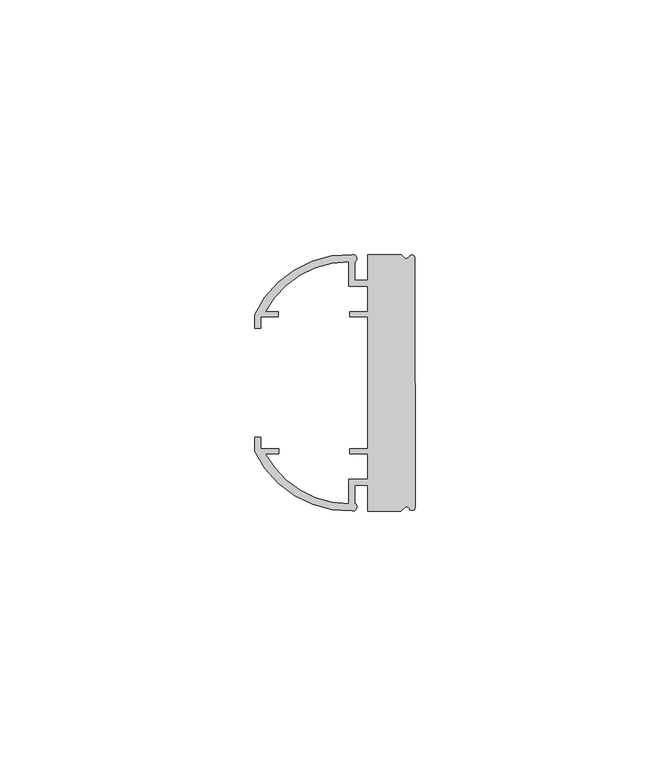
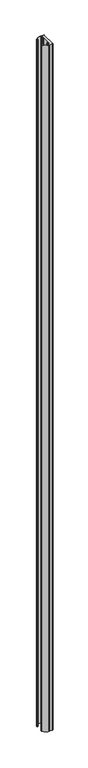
"""IFC4 building model written with IfcOpenShell, lengths in millimetres: member geometry, Прямоугольный импост : 12-AMG-2-Профиль жалюзи горизонтальный."""

import ifcopenshell
import ifcopenshell.guid

model = None  # the IFC model being written
_history = None  # IfcOwnerHistory: only IFC2X3 demands one
_inside = {}  # id of a spatial element -> (the spatial element, [elements in it])
_under = {}  # id of a project, library or spatial element -> (it, [spatial elements below it])
_declared = {}  # id of a project -> (the project, [libraries it declares])
_typed = {}  # id of a type object -> (the type object, [elements of that type])
_made_of = {}  # id of a material, layer set ... -> (it, [elements and type objects made of it])


def new_model(schema):
    """Start an empty IFC model of exactly this schema.

    Asked for "IFC4X3", IfcOpenShell would pick the latest addendum, in which some entities
    have other attributes; the version numbers below select the first issue.
    IFC2X3 requires an IfcOwnerHistory on every rooted entity: one is made here for all.
    """
    global model, _history
    if schema == "IFC4X3":
        model = ifcopenshell.file(schema_version=(4, 3, 0, 0))
    else:
        model = ifcopenshell.file(schema=schema)
    _inside.clear()
    _under.clear()
    _declared.clear()
    _typed.clear()
    _made_of.clear()
    _history = None
    if model.schema == "IFC2X3":
        org = make("IfcOrganization", Name="unknown")
        user = make(
            "IfcPersonAndOrganization",
            ThePerson=make("IfcPerson", FamilyName="unknown"),
            TheOrganization=org,
        )
        app = make(
            "IfcApplication",
            ApplicationDeveloper=org,
            Version="unknown",
            ApplicationFullName="unknown",
            ApplicationIdentifier="unknown",
        )
        _history = make(
            "IfcOwnerHistory",
            OwningUser=user,
            OwningApplication=app,
            ChangeAction="ADDED",
            CreationDate=0,
        )
    return model


def make(cls, **values):
    """One entity of the class cls with the attributes given. An attribute that is None is left unset."""
    return model.create_entity(
        cls, **{name: value for name, value in values.items() if value is not None}
    )


def rooted(cls, **values):
    """An entity with a GlobalId (a new one), such as an element, a storey or a relation."""
    return make(cls, GlobalId=ifcopenshell.guid.new(), OwnerHistory=_history, **values)


def si_unit(unit_type, name, prefix=None):
    """IfcSIUnit, for example si_unit("LENGTHUNIT", "METRE", prefix="MILLI")."""
    return make("IfcSIUnit", UnitType=unit_type, Prefix=prefix, Name=name)


def assignment(units):
    """IfcUnitAssignment: the units of a project."""
    return None if units is None else make("IfcUnitAssignment", Units=units)


def point(xyz):
    """IfcCartesianPoint."""
    return None if xyz is None else make("IfcCartesianPoint", Coordinates=xyz)


def direction(xyz):
    """IfcDirection."""
    return None if xyz is None else make("IfcDirection", DirectionRatios=xyz)


def frame(location, z_axis=None, x_axis=None):
    """IfcAxis2Placement3D, a coordinate frame: its origin and axes. An axis left out is left unset."""
    return make(
        "IfcAxis2Placement3D",
        Location=point(location),
        Axis=direction(z_axis),
        RefDirection=direction(x_axis),
    )


def frame_2d(location, x_axis=None):
    """IfcAxis2Placement2D, a coordinate frame in the plane: its origin and x axis."""
    return make(
        "IfcAxis2Placement2D", Location=point(location), RefDirection=direction(x_axis)
    )


def origin():
    """The frame at (0, 0, 0) with its axes left unset."""
    return frame((0.0, 0.0, 0.0))


def place(relative_to, where):
    """IfcLocalPlacement: puts the frame where relative to a parent placement (None: the world)."""
    return make(
        "IfcLocalPlacement", PlacementRelTo=relative_to, RelativePlacement=where
    )


def context(
    kind, dimensions, precision=None, world=None, true_north=None, identifier=None
):
    """IfcGeometricRepresentationContext, for example the 3D "Model" context."""
    return make(
        "IfcGeometricRepresentationContext",
        ContextIdentifier=identifier,
        ContextType=kind,
        CoordinateSpaceDimension=dimensions,
        Precision=precision,
        WorldCoordinateSystem=world,
        TrueNorth=true_north,
    )


def project(units=None, contexts=None):
    """IfcProject with its units and contexts."""
    return rooted(
        "IfcProject",
        Name="project",
        RepresentationContexts=contexts,
        UnitsInContext=assignment(units),
    )


def spatial(cls, under=None, at=None, **own):
    """A site, building, storey or space (cls), placed at a placement, below another one or the project."""
    s = rooted(cls, ObjectPlacement=at, **own)
    if under is not None:
        _under.setdefault(under.id(), (under, []))[1].append(s)
    return s


def polyline(points):
    """IfcPolyline through the points."""
    return make("IfcPolyline", Points=[point(p) for p in points])


def circle_curve(where, radius):
    """IfcCircle in the frame where."""
    return make("IfcCircle", Position=where, Radius=radius)


def trimmed(basis, trim1, trim2, sense, master):
    """IfcTrimmedCurve: the piece of a basis curve between two trims."""
    return make(
        "IfcTrimmedCurve",
        BasisCurve=basis,
        Trim1=trim1,
        Trim2=trim2,
        SenseAgreement=sense,
        MasterRepresentation=master,
    )


def segment(curve, same_sense, transition):
    """IfcCompositeCurveSegment."""
    return make(
        "IfcCompositeCurveSegment",
        Transition=transition,
        SameSense=same_sense,
        ParentCurve=curve,
    )


def composite_curve(segments, self_intersect=None):
    """IfcCompositeCurve: segments joined end to end."""
    return make("IfcCompositeCurve", Segments=segments, SelfIntersect=self_intersect)


def outline(outer, holes=None, kind="AREA"):
    """IfcArbitraryClosedProfileDef: a profile drawn as a closed curve; with holes, ...WithVoids."""
    if holes is None:
        return make("IfcArbitraryClosedProfileDef", ProfileType=kind, OuterCurve=outer)
    return make(
        "IfcArbitraryProfileDefWithVoids",
        ProfileType=kind,
        OuterCurve=outer,
        InnerCurves=holes,
    )


def extrude(swept, where, along, depth):
    """IfcExtrudedAreaSolid: the profile swept, set in the frame where, extruded along a direction by depth."""
    return make(
        "IfcExtrudedAreaSolid",
        SweptArea=swept,
        Position=where,
        ExtrudedDirection=direction(along),
        Depth=depth,
    )


def shape(context_of_items, identifier, shape_type, items):
    """IfcShapeRepresentation: the items that make up one representation, for example the "Body"."""
    return make(
        "IfcShapeRepresentation",
        ContextOfItems=context_of_items,
        RepresentationIdentifier=identifier,
        RepresentationType=shape_type,
        Items=items,
    )


def source(mapping_origin, context_of_items, identifier, shape_type, items):
    """IfcRepresentationMap: a shape defined once, which mapped items show again and again."""
    return make(
        "IfcRepresentationMap",
        MappingOrigin=mapping_origin,
        MappedRepresentation=shape(context_of_items, identifier, shape_type, items),
    )


def transform(
    local_origin,
    x_axis=None,
    y_axis=None,
    z_axis=None,
    scale=None,
    scale2=None,
    scale3=None,
    uniform=True,
):
    """IfcCartesianTransformationOperator3D, or its non-uniform kind. x_axis, y_axis, z_axis: its Axis1, 2, 3."""
    if uniform:
        return make(
            "IfcCartesianTransformationOperator3D",
            Axis1=direction(x_axis),
            Axis2=direction(y_axis),
            LocalOrigin=point(local_origin),
            Scale=scale,
            Axis3=direction(z_axis),
        )
    return make(
        "IfcCartesianTransformationOperator3DnonUniform",
        Axis1=direction(x_axis),
        Axis2=direction(y_axis),
        LocalOrigin=point(local_origin),
        Scale=scale,
        Axis3=direction(z_axis),
        Scale2=scale2,
        Scale3=scale3,
    )


def mapped(mapping_source, mapping_target):
    """IfcMappedItem: shows the shape of a source again, moved by a transform."""
    return make(
        "IfcMappedItem", MappingSource=mapping_source, MappingTarget=mapping_target
    )


def made_of(thing, what):
    """Note that an element or type object is made of a material, layer set ...; save() writes the relation."""
    if what is not None:
        _made_of.setdefault(what.id(), (what, []))[1].append(thing)
    return thing


def element(
    cls,
    number,
    at=None,
    inside=None,
    cuts=None,
    type_object=None,
    material=None,
    context=None,
    identifier="Body",
    shape_type=None,
    held_by="IfcProductDefinitionShape",
    body=None,
    shapes=None,
    **own,
):
    """One element of the class cls, such as IfcWall. Its Tag is "e" and its number.

    at: its placement. inside: the storey or other place that contains it. cuts: it is an
    opening in that element (IfcRelVoidsElement). A single representation is given by context,
    identifier, shape_type and body (its items); several are given by shapes. held_by: the class
    of the entity that holds the representations. save() writes the other relations.
    """
    e = rooted(cls, Tag="e%d" % number, ObjectPlacement=at, **own)
    if body is not None:
        shapes = [shape(context, identifier, shape_type, body)]
    if shapes is not None:
        e.Representation = make(held_by, Representations=shapes)
    if inside is not None:
        _inside.setdefault(inside.id(), (inside, []))[1].append(e)
    if cuts is not None:
        rooted(
            "IfcRelVoidsElement", RelatingBuildingElement=cuts, RelatedOpeningElement=e
        )
    if type_object is not None:
        _typed.setdefault(type_object.id(), (type_object, []))[1].append(e)
    return made_of(e, material)


def aggregate(whole, parts):
    """IfcRelAggregates: a whole, such as a stair, and the parts it consists of."""
    return rooted("IfcRelAggregates", RelatingObject=whole, RelatedObjects=parts)


def save(model, path):
    """Write the relations noted so far, then the file.

    IfcRelAggregates (storeys below a building ...), IfcRelContainedInSpatialStructure (elements
    in a storey), IfcRelDefinesByType, IfcRelAssociatesMaterial and IfcRelDeclares: one each for
    every whole, place, type object, material and project.
    """
    for whole, parts in _under.values():
        aggregate(whole, parts)
    for where, things in _inside.values():
        rooted(
            "IfcRelContainedInSpatialStructure",
            RelatedElements=things,
            RelatingStructure=where,
        )
    for kind, things in _typed.values():
        rooted("IfcRelDefinesByType", RelatedObjects=things, RelatingType=kind)
    for what, things in _made_of.values():
        rooted("IfcRelAssociatesMaterial", RelatedObjects=things, RelatingMaterial=what)
    for by, libraries in _declared.values():
        rooted("IfcRelDeclares", RelatingContext=by, RelatedDefinitions=libraries)
    model.write(path)


def member_f9dfea10(model_context):
    return source(origin(), model_context, "Body", "SweptSolid", [
        extrude(outline(composite_curve([segment(polyline([(-9.2810949, 25.2156022), (-2.6997222, 25.2156022), (-1.821924, 24.4218896)]), True, "CONTINUOUS"), segment(trimmed(circle_curve(frame_2d((-1.7382387, 25.1851191)), 0.7678037), [point((-1.821924, 24.4218896))], [point((-1.0051642, 24.9568116))], True, "CARTESIAN"), True, "CONTINUOUS"), segment(trimmed(circle_curve(frame_2d((-0.5805848, 24.5328631)), 0.6), [point((-1.0051642, 24.9568116))], [point((0.019415, 24.5333092))], False, "CARTESIAN"), True, "CONTINUOUS"), segment(polyline([(0.019415, 24.5333092), (0.0558414, -24.4579968)]), True, "CONTINUOUS"), segment(trimmed(circle_curve(frame_2d((-0.5441584, -24.4584429)), 0.6), [point((0.0558414, -24.4579968))], [point((-0.9681069, -24.8830223))], False, "CARTESIAN"), True, "CONTINUOUS"), segment(trimmed(circle_curve(frame_2d((-1.700841, -25.1124197)), 0.7678037), [point((-0.9681069, -24.8830223))], [point((-1.7856612, -24.3493155))], True, "CARTESIAN"), True, "CONTINUOUS"), segment(polyline([(-1.7856612, -24.3493155), (-2.7521869, -25.2258721), (-9.2435902, -25.2258721), (-9.247402, -20.0992274), (-11.7474013, -20.1010862), (-11.7447564, -23.6582649)]), True, "CONTINUOUS"), segment(trimmed(circle_curve(frame_2d((-12.1442412, -24.3513824)), 0.8), [point((-11.7447564, -23.6582649))], [point((-12.2647846, -25.1422486))], False, "CARTESIAN"), True, "CONTINUOUS"), segment(trimmed(circle_curve(frame_2d((-12.9138404, -4.6711309)), 20.4814045), [point((-12.2647846, -25.1422486))], [point((-31.4524056, -13.377998))], False, "CARTESIAN"), True, "CONTINUOUS"), segment(polyline([(-31.4524056, -13.377998), (-31.4544131, -10.6779988), (-30.2544134, -10.6771065), (-30.2527496, -12.9148435), (-26.7527506, -12.9122411), (-26.752007, -13.9122408), (-29.3677285, -13.9141857)]), True, "CONTINUOUS"), segment(trimmed(circle_curve(frame_2d((-12.932661, -5.1059704)), 18.6466109), [point((-29.3677285, -13.9141857))], [point((-12.9446867, -23.7525774))], True, "CARTESIAN"), True, "CONTINUOUS"), segment(polyline([(-12.9446867, -23.7525774), (-12.9482932, -18.9019787), (-9.2482942, -18.8992277), (-9.2520119, -13.8992291), (-12.7520109, -13.9018314), (-12.7527544, -12.9018317), (-9.2527554, -12.8992294), (-9.271983, 12.9607121), (-12.771982, 12.9581098), (-12.7727256, 13.9581095), (-9.2727265, 13.9607119), (-9.2764442, 18.9607105), (-12.9764432, 18.9579594), (-12.9800497, 23.8085581)]), True, "CONTINUOUS"), segment(trimmed(circle_curve(frame_2d((-12.9402955, 5.1619896)), 18.6466109), [point((-12.9800497, 23.8085581))], [point((-29.3884431, 13.9457552))], True, "CARTESIAN"), True, "CONTINUOUS"), segment(polyline([(-29.3884431, 13.9457552), (-26.7727217, 13.9477001), (-26.7719782, 12.9477004), (-30.2719772, 12.945098), (-30.2703134, 10.7073611), (-31.4703131, 10.7064689), (-31.4723206, 13.4064681)]), True, "CONTINUOUS"), segment(trimmed(circle_curve(frame_2d((-12.9208284, 4.7271786)), 20.4814045), [point((-31.4723206, 13.4064681))], [point((-12.3022149, 25.1992388))], False, "CARTESIAN"), True, "CONTINUOUS"), segment(trimmed(circle_curve(frame_2d((-12.1804956, 24.4085527)), 0.8), [point((-12.3022149, 25.1992388))], [point((-11.7799806, 23.71603))], False, "CARTESIAN"), True, "CONTINUOUS"), segment(polyline([(-11.7799806, 23.71603), (-11.7773357, 20.1588513), (-9.2773364, 20.1607101), (-9.2810949, 25.2156022)]), True, "CONTINUOUS")], self_intersect=False)), frame((0.0, 0.0, -2417.8), z_axis=(0.0, 0.0, 1.0), x_axis=(1.0, 0.0, 0.0)), (0.0, 0.0, 1.0), 2417.8),
    ])


if __name__ == "__main__":
    model = new_model("IFC4")
    model_context = context("Model", 3, world=origin())
    ifc_project = project(units=[si_unit("LENGTHUNIT", "METRE", prefix="MILLI")], contexts=[model_context])
    site = spatial("IfcSite", under=ifc_project)
    building = spatial("IfcBuilding", under=site)
    placement = place(None, origin())
    member_shape = member_f9dfea10(model_context)
    element("IfcMember", 1, ObjectType="Прямоугольный импост : 12-AMG-2-Профиль жалюзи горизонтальный", at=placement, inside=building, context=model_context, shape_type="MappedRepresentation", body=[
        mapped(member_shape, transform((0.0, 0.0, 0.0), x_axis=(1.0, 0.0, 0.0), y_axis=(0.0, 1.0, 0.0), z_axis=(0.0, 0.0, 1.0))),
    ])
    save(model, "model.ifc")
